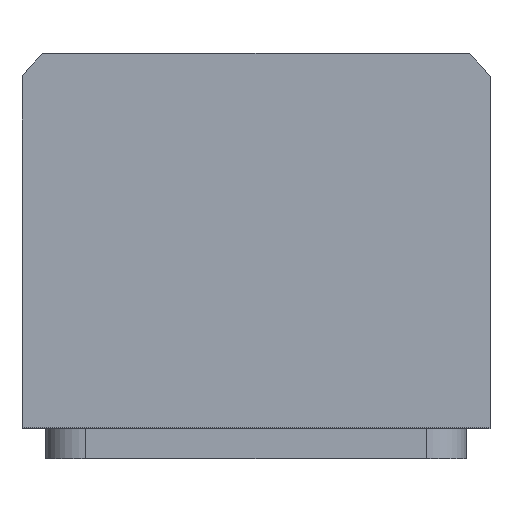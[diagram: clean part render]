
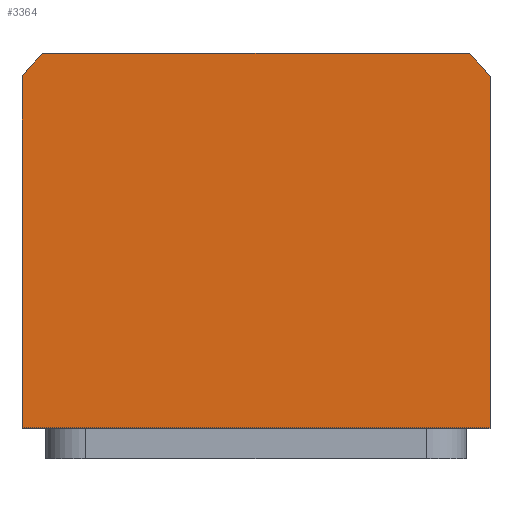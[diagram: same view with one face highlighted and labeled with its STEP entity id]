
A CAD part, top view. The second image highlights one B-rep face of the part: STEP entity #3364.
In plain terms, the highlighted planar face has unit normal (0, 0, 1).
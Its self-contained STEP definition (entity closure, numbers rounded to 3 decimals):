
#2626=FACE_OUTER_BOUND('',#4295,.T.);
#3364=ADVANCED_FACE('',(#2626),#3800,.T.);
#3800=PLANE('',#11316);
#4295=EDGE_LOOP('',(#6819,#6820,#6821,#6822,#6823,#6824));
#4808=LINE('',#13602,#5680);
#4832=LINE('',#14273,#5704);
#4844=LINE('',#14318,#5716);
#4855=LINE('',#14343,#5727);
#5680=VECTOR('',#11723,1.);
#5704=VECTOR('',#11837,1.);
#5716=VECTOR('',#11883,1.);
#5727=VECTOR('',#11906,1.);
#6819=ORIENTED_EDGE('',*,*,#10041,.T.);
#6820=ORIENTED_EDGE('',*,*,#9948,.T.);
#6821=ORIENTED_EDGE('',*,*,#10051,.T.);
#6822=ORIENTED_EDGE('',*,*,#10063,.T.);
#6823=ORIENTED_EDGE('',*,*,#10045,.T.);
#6824=ORIENTED_EDGE('',*,*,#10078,.T.);
#9079=VERTEX_POINT('',#13572);
#9094=VERTEX_POINT('',#13601);
#9176=VERTEX_POINT('',#14269);
#9178=VERTEX_POINT('',#14276);
#9181=VERTEX_POINT('',#14281);
#9185=VERTEX_POINT('',#14293);
#9948=EDGE_CURVE('',#9079,#9094,#4808,.T.);
#10041=EDGE_CURVE('',#9176,#9079,#4832,.T.);
#10045=EDGE_CURVE('',#9178,#9181,#11183,.T.);
#10051=EDGE_CURVE('',#9094,#9185,#11187,.T.);
#10063=EDGE_CURVE('',#9185,#9178,#4844,.T.);
#10078=EDGE_CURVE('',#9181,#9176,#4855,.T.);
#11183=CIRCLE('',#11294,44.5);
#11187=CIRCLE('',#11300,44.5);
#11294=AXIS2_PLACEMENT_3D('',#14282,#11844,#11845);
#11300=AXIS2_PLACEMENT_3D('',#14294,#11858,#11859);
#11316=AXIS2_PLACEMENT_3D('',#14355,#11915,#11916);
#11723=DIRECTION('',(0.,1.,0.));
#11837=DIRECTION('',(1.,0.,0.));
#11844=DIRECTION('',(0.,0.,1.));
#11845=DIRECTION('',(1.,0.,0.));
#11858=DIRECTION('',(0.,0.,1.));
#11859=DIRECTION('',(1.,0.,0.));
#11883=DIRECTION('',(-1.,0.,0.));
#11906=DIRECTION('',(0.,-1.,0.));
#11915=DIRECTION('',(0.,0.,1.));
#11916=DIRECTION('',(-1.,0.,0.));
#13572=CARTESIAN_POINT('',(35.,-25.,52.));
#13601=CARTESIAN_POINT('',(35.,27.482,52.));
#13602=CARTESIAN_POINT('',(35.,27.482,52.));
#14269=CARTESIAN_POINT('',(-35.,-25.,52.));
#14273=CARTESIAN_POINT('',(35.,-25.,52.));
#14276=CARTESIAN_POINT('',(-31.926,31.,52.));
#14281=CARTESIAN_POINT('',(-35.,27.482,52.));
#14282=CARTESIAN_POINT('',(0.,0.,52.));
#14293=CARTESIAN_POINT('',(31.926,31.,52.));
#14294=CARTESIAN_POINT('',(0.,0.,52.));
#14318=CARTESIAN_POINT('',(-31.926,31.,52.));
#14343=CARTESIAN_POINT('',(-35.,-25.,52.));
#14355=CARTESIAN_POINT('',(0.,0.,52.));
